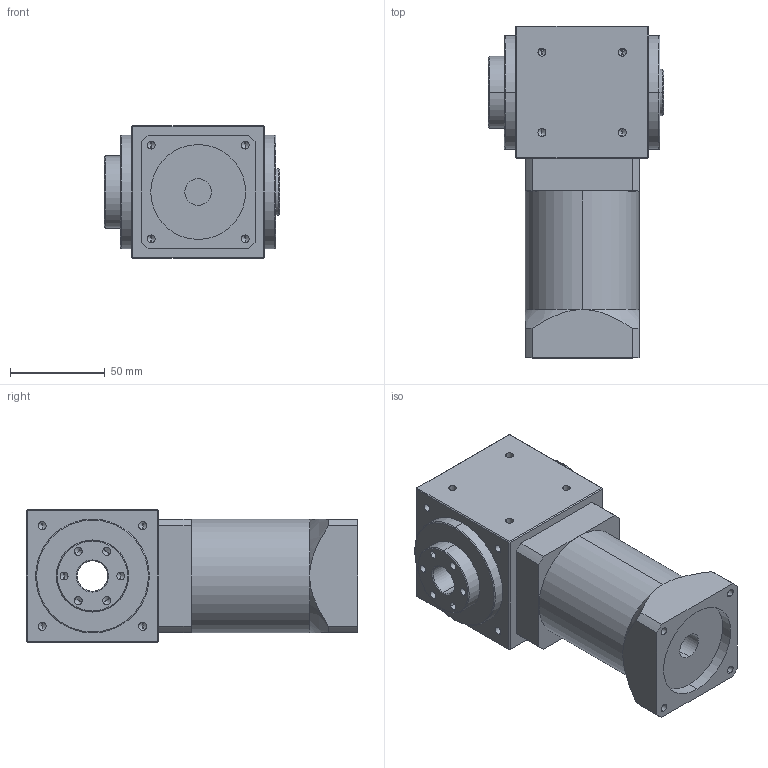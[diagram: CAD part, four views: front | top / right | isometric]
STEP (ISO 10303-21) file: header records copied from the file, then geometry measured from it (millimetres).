
FILE_DESCRIPTION (( 'STEP AP214' ), '1' );
FILE_NAME ('RXW070AS-L2-RF-400W.STEP', '2020-07-01T09:56:44', ( 'User' ), ( 'Far123' ), 'SwSTEP 2.0', 'SolidWorks 2015', '' );
FILE_SCHEMA (( 'AUTOMOTIVE_DESIGN' ));
Length unit declared in the file: millimetre
Products named in the file (1): RXW070AS-L2-RF-400W
Bounding box: 92.5 x 175 x 70 mm (x, y, z)
Volume: 673608.5 mm3; surface area: 66193.6 mm2
Topology: 1 solids, 1 shells, 205 faces, 496 edges, 262 vertices
Faces by surface type: cylinder 84, cone 72, plane 45, torus 4
Entity records: 6352 total; most frequent: CARTESIAN_POINT 1128, DIRECTION 1012, ORIENTED_EDGE 872, EDGE_CURVE 436, AXIS2_PLACEMENT_3D 394, VERTEX_POINT 262, EDGE_LOOP 244, LINE 224
